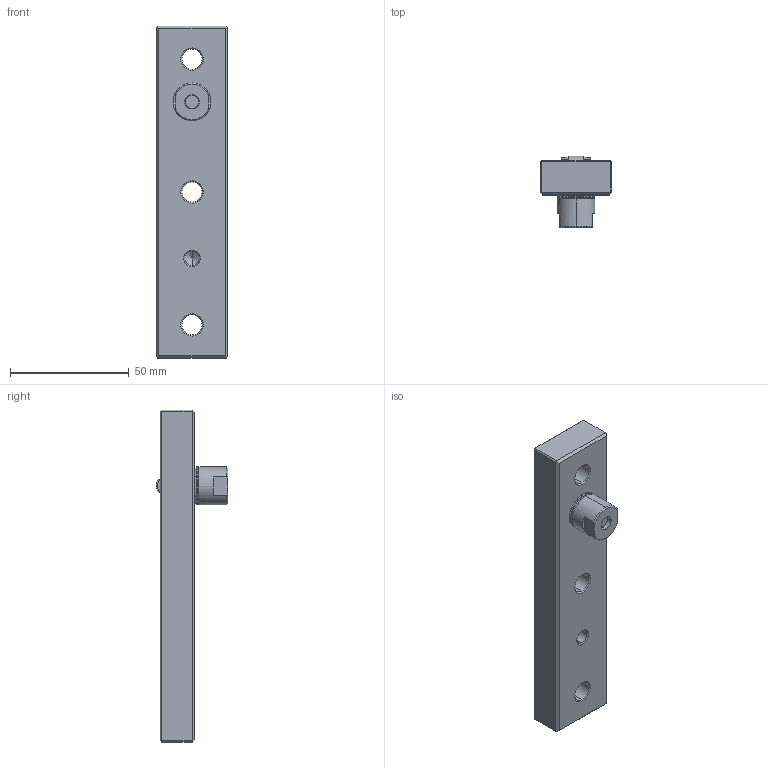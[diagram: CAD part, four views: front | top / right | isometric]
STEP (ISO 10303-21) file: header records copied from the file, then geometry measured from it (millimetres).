
FILE_DESCRIPTION (( 'STEP AP203' ), '1' );
FILE_NAME ('PRI30140.STEP', '2010-07-09T14:12:02', ( ' ' ), ( ' ' ), 'SwSTEP 2.0', 'SolidWorks 2005204', '' );
FILE_SCHEMA (( 'CONFIG_CONTROL_DESIGN' ));
Length unit declared in the file: millimetre
Products named in the file (8): PERNO RULLINO8; CORPO RITENSORE8; RULLINO8; SPINA 4X12; PRI30140; MOLLA-RR30; RITENSORE 30
Assembly tree (7 placements, depth 3):
  PRI30140
    RITENSORE 30
      MOLLA-RR30
      RULLINO8
      SPINA 4X12
      CORPO RITENSORE8
      PERNO RULLINO8
    PRI30140
Bounding box: 30 x 30.19 x 140 mm (x, y, z)
Volume: 57457.9 mm3; surface area: 19207.1 mm2
Topology: 6 solids, 6 shells, 181 faces, 402 edges, 238 vertices
Faces by surface type: cylinder 67, cone 57, plane 53, bspline 2, torus 2
Entity records: 7232 total; most frequent: CARTESIAN_POINT 2293, DIRECTION 932, ORIENTED_EDGE 798, EDGE_CURVE 399, AXIS2_PLACEMENT_3D 365, VERTEX_POINT 238, EDGE_LOOP 205, VECTOR 202
